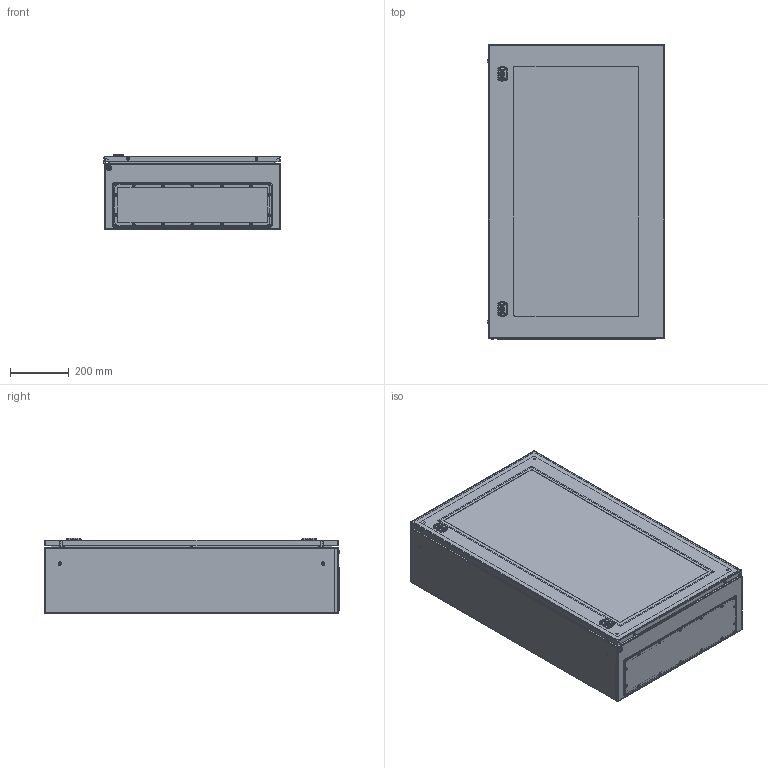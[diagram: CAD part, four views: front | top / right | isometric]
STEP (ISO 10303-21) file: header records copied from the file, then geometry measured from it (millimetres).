
FILE_DESCRIPTION (( 'STEP AP203' ), '1' );
FILE_NAME ('R5STX1069.STEP', '2022-04-28T09:15:28', ( '' ), ( '' ), 'SwSTEP 2.0', 'SolidWorks 2020', '' );
FILE_SCHEMA (( 'CONFIG_CONTROL_DESIGN' ));
Length unit declared in the file: millimetre
Products named in the file (41): M4x6 DIN 7985 PH cl.4,8 Zinc_straight; 娗p ST; RB.0048.10.00.0 捘_-05; RB.0048.00.02.1_-12; RB.0048.09.00.0 捘_-05; RB.0048.01.02.0_-15; RB.2237.00.00.0; AC00C317-R; Pin 1.2x12 GOST 3128-70; AC00C356-R_AC00c356(A7100031); RB.2171.00.00.0 捘; AC00C316-R; Glue ST_1000x0600; RB.2238.00.00.0; AC00C380-R; AC00C343-R; PF 7,5x15 door ST_1000x0600; RB.0048.02.00.1 C縫-34; M6x16 DIN 7985 PZ cl.4,8 Zinc_straight; PF 4x8 flange ST_04; M8 DIN 6923 cl.8,0 Zinc_straight; Ì6õ12 A5100231_straight; Glass ST_1000x0600; RB.0048.01.00.1 C縫-34; TPA.08.0001.00.00.0; TPA.08.0002.00.00.0; TPA.08.0003.00.00.0; TPA.08.0060.00.00.0 捘; R5STX1069; RB.2171.00.01.0; PT Ì6õ16 Cu ISO13918_straight; AC00C112-R; RB.0048.01.01.1_-34; RB.0048.09.01.0_-05; M4x10 DIN 7500 M PZ cl.4,8 Zinc_straight; A7100032-R; RB.2070.00.00.0; RB.0048.11.00.0 C縫-04; RB.0048.11.01.0_-04; AC00C348-R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
Assembly tree (76 placements, depth 4):
  R5STX1069
    RB.0048.02.00.1 C縫-34
      RB.0048.01.00.1 C縫-34
        RB.0048.01.01.1_-34
        RB.0048.01.02.0_-15
        PT Ì8õ25 cl.4.8 Cu ISO13918_straight  x4
        PT Ì6õ16 Cu ISO13918_straight  x4
      AC00C317-R  x4
      AC00C316-R
      RB.2171.00.00.0 捘  x3
        RB.2171.00.01.0
        Pin 1.2x12 GOST 3128-70
      娗p ST  x3
      M4x6 DIN 7985 PH cl.4,8 Zinc_straight  x3
    RB.0048.11.00.0 C縫-04
      RB.0048.11.01.0_-04
      PF 4x8 flange ST_04
    RB.2238.00.00.0  x3
    M8 DIN 6923 cl.8,0 Zinc_straight  x4
    RB.0048.10.00.0 捘_-05
      RB.0048.09.00.0 捘_-05
        RB.0048.09.01.0_-05
        RB.2237.00.00.0  x3
        Ì6õ12 A5100231_straight  x4
      AC00C112-R  x4
      PF 7,5x15 door ST_1000x0600
      TPA.08.0060.00.00.0 捘  x2
        A7100032-R
        AC00C343-R
        AC00C348-R
        TPA.08.0001.00.00.0
        TPA.08.0002.00.00.0
        TPA.08.0003.00.00.0
        M6x16 DIN 7985 PZ cl.4,8 Zinc_straight
      Glass ST_1000x0600
      Glue ST_1000x0600
      AC00C356-R_AC00c356(A7100031)  x2
    AC00C380-R  x2
    RB.0048.00.02.1_-12
    RB.2070.00.00.0  x4
    M4x10 DIN 7500 M PZ cl.4,8 Zinc_straight  x2
Bounding box: 602.8 x 1003.5 x 258.48 mm (x, y, z)
Volume: 5679033.7 mm3; surface area: 5768734.9 mm2
Topology: 79 solids, 79 shells, 5783 faces, 14323 edges, 8988 vertices
Faces by surface type: plane 2966, cylinder 1480, bspline 472, torus 465, cone 304, sphere 96
Entity records: 134621 total; most frequent: CARTESIAN_POINT 37119, ORIENTED_EDGE 19332, DIRECTION 18451, EDGE_CURVE 9666, VECTOR 6651, LINE 6651, VERTEX_POINT 6166, AXIS2_PLACEMENT_3D 5900
